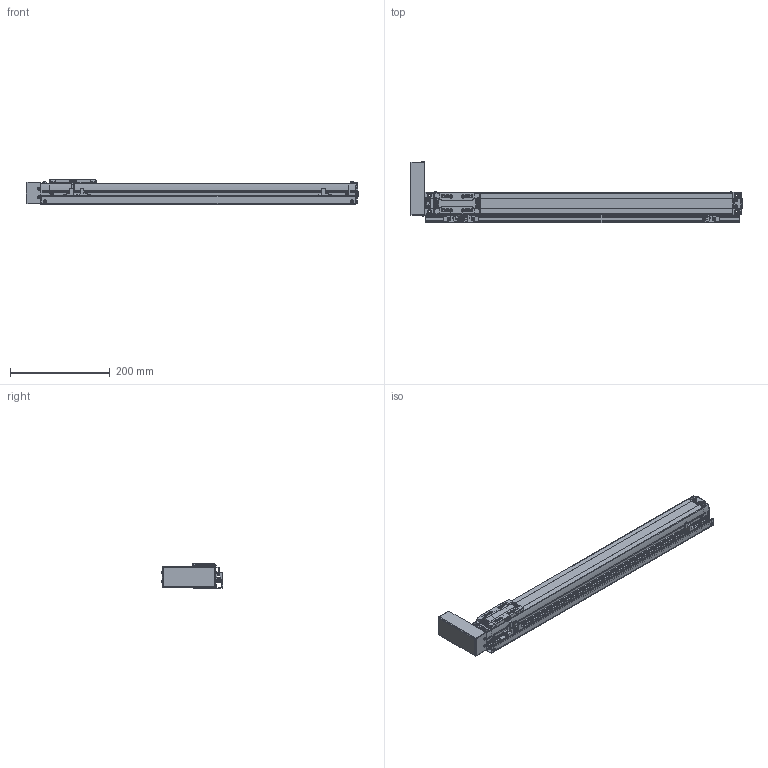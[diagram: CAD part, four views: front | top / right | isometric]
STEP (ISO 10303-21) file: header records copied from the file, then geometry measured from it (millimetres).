
FILE_DESCRIPTION(('STEP AP214'),'1');
FILE_NAME('Z:/Web/3D/SAN45/2013.ver/STP/SAN45ㅁㅁ-500PL+3SR.stp','2013-05-15T11:57:35',(' '),(' '),'Spatial InterOp 3D',' ',' ');
FILE_SCHEMA(('automotive_design'));
Length unit declared in the file: millimetre
Products named in the file (46): BODY-SAN45; REAR-SAN45; RRCV-SAN45; BHCS M3 x 6L; BHCS M3 X 6L; FRONT-SAN45; SHAFT; RN8 x 0.75; SSFX-SAN45; SLIDE-SAN45; SLCV-IM45; FHCS M3 x 6L; BTCV-SAN45; SRL-16x17-380L; EE-SX674; SBK-SX674-352; SDG-SA45; SCREW M3 x 5L
Bounding box: 666.15 x 123.06 x 50 mm (x, y, z)
Volume: 1356827.5 mm3; surface area: 268552.1 mm2
Topology: 46 solids, 46 shells, 2356 faces, 6085 edges, 3898 vertices
Faces by surface type: plane 1288, cylinder 742, cone 160, sphere 84, bspline 44, torus 32, extrusion 6
Entity records: 95272 total; most frequent: CARTESIAN_POINT 16948, DIRECTION 12657, ORIENTED_EDGE 12002, EDGE_CURVE 6001, AXIS2_PLACEMENT_3D 4426, VERTEX_POINT 3898, VECTOR 3805, LINE 3799
